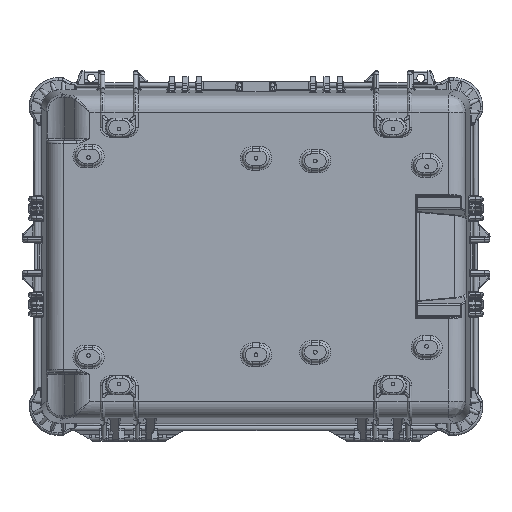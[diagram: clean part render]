
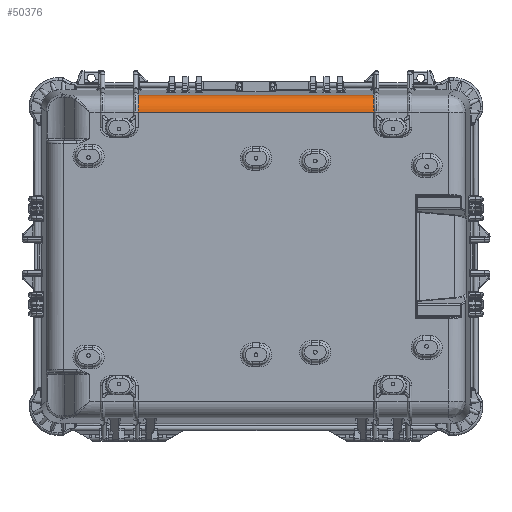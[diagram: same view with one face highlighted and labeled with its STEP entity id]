
A CAD part, front view. The second image highlights one B-rep face of the part: STEP entity #50376.
In plain terms, the highlighted cylindrical face has radius 22.606 mm (diameter 45.212 mm), a partial arc.
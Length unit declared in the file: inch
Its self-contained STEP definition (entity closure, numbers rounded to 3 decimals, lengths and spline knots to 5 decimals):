
#6990 = CYLINDRICAL_SURFACE ( 'NONE', #106823, 0.89 ) ;
#7944 = AXIS2_PLACEMENT_3D ( 'NONE', #86438, #44942, #128799 ) ;
#16285 = CARTESIAN_POINT ( 'NONE',  ( 6.22987, -7.89106, 8.51944 ) ) ;
#33890 = CIRCLE ( 'NONE', #155254, 0.89 ) ;
#35188 = EDGE_CURVE ( 'NONE', #103651, #123373, #61814, .T. ) ;
#38126 = CARTESIAN_POINT ( 'NONE',  ( -6.22987, -8.75, 7.62998 ) ) ;
#40592 = ORIENTED_EDGE ( 'NONE', *, *, #118933, .T. ) ;
#42476 = VECTOR ( 'NONE', #143093, 39.37008 ) ;
#42548 = VECTOR ( 'NONE', #156386, 39.37008 ) ;
#44942 = DIRECTION ( 'NONE',  ( 1., 0., 0. ) ) ;
#50376 = ADVANCED_FACE ( 'NONE', ( #128068 ), #6990, .T. ) ;
#61814 = LINE ( 'NONE', #132430, #42476 ) ;
#71626 = EDGE_LOOP ( 'NONE', ( #84823, #40592, #141881, #81358 ) ) ;
#81358 = ORIENTED_EDGE ( 'NONE', *, *, #147353, .F. ) ;
#84415 = CARTESIAN_POINT ( 'NONE',  ( -6.22987, -7.89106, 8.51944 ) ) ;
#84823 = ORIENTED_EDGE ( 'NONE', *, *, #35188, .T. ) ;
#86438 = CARTESIAN_POINT ( 'NONE',  ( -6.22987, -7.86, 7.62998 ) ) ;
#86947 = CIRCLE ( 'NONE', #7944, 0.89 ) ;
#90329 = EDGE_CURVE ( 'NONE', #165369, #127139, #155527, .T. ) ;
#102893 = DIRECTION ( 'NONE',  ( 1., 0., 0. ) ) ;
#103651 = VERTEX_POINT ( 'NONE', #16285 ) ;
#106823 = AXIS2_PLACEMENT_3D ( 'NONE', #142223, #125447, #114806 ) ;
#114806 = DIRECTION ( 'NONE',  ( 0., 0., 1. ) ) ;
#117347 = CARTESIAN_POINT ( 'NONE',  ( 6.22987, -8.75, 7.62998 ) ) ;
#118933 = EDGE_CURVE ( 'NONE', #123373, #165369, #86947, .T. ) ;
#123373 = VERTEX_POINT ( 'NONE', #84415 ) ;
#125447 = DIRECTION ( 'NONE',  ( -1., 0., 0. ) ) ;
#127139 = VERTEX_POINT ( 'NONE', #117347 ) ;
#128068 = FACE_OUTER_BOUND ( 'NONE', #71626, .T. ) ;
#128799 = DIRECTION ( 'NONE',  ( 0., 0., 1. ) ) ;
#132430 = CARTESIAN_POINT ( 'NONE',  ( 10.16498, -7.89106, 8.51944 ) ) ;
#140942 = CARTESIAN_POINT ( 'NONE',  ( 6.22987, -7.86, 7.62998 ) ) ;
#141881 = ORIENTED_EDGE ( 'NONE', *, *, #90329, .T. ) ;
#142223 = CARTESIAN_POINT ( 'NONE',  ( 10.16498, -7.86, 7.62998 ) ) ;
#143093 = DIRECTION ( 'NONE',  ( -1., 0., 0. ) ) ;
#147353 = EDGE_CURVE ( 'NONE', #103651, #127139, #33890, .T. ) ;
#153767 = CARTESIAN_POINT ( 'NONE',  ( 0., -8.75, 7.62998 ) ) ;
#155254 = AXIS2_PLACEMENT_3D ( 'NONE', #140942, #102893, #168325 ) ;
#155527 = LINE ( 'NONE', #153767, #42548 ) ;
#156386 = DIRECTION ( 'NONE',  ( 1., 0., 0. ) ) ;
#165369 = VERTEX_POINT ( 'NONE', #38126 ) ;
#168325 = DIRECTION ( 'NONE',  ( 0., 0., 1. ) ) ;
